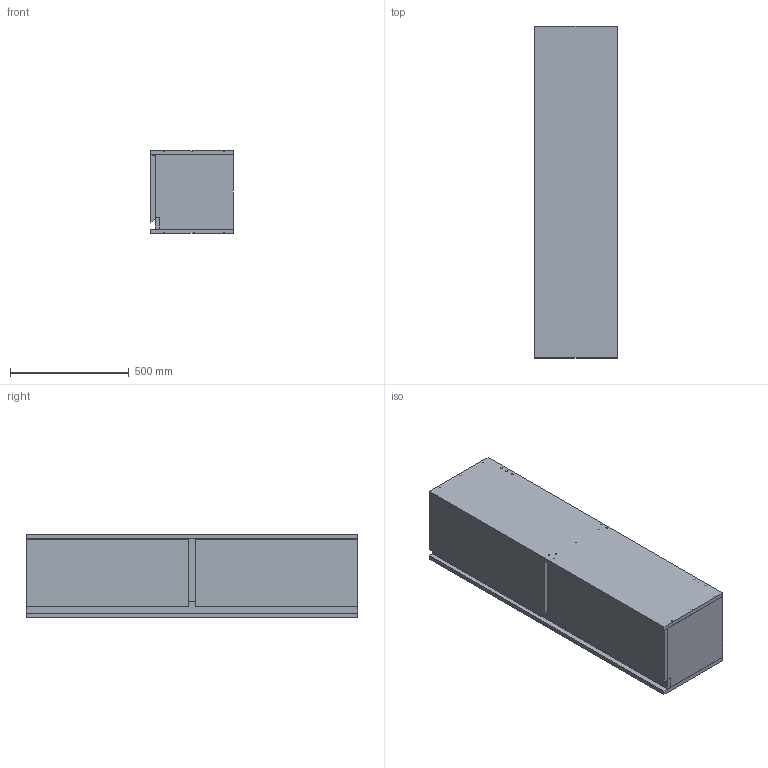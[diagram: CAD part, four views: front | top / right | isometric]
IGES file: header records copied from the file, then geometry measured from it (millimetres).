
Global section: file name: 3D Dosyası,; native system: Autodesk Inventor 2024; preprocessor: unknown; author: pc19; date: 20240718.102216; units: millimetre
Bounding box: 350 x 1400 x 350 mm (x, y, z)
Volume: 36918469.4 mm3; surface area: 5273499.2 mm2
Topology: 13 solids, 13 shells, 254 faces, 621 edges, 468 vertices
Faces by surface type: bspline 254
